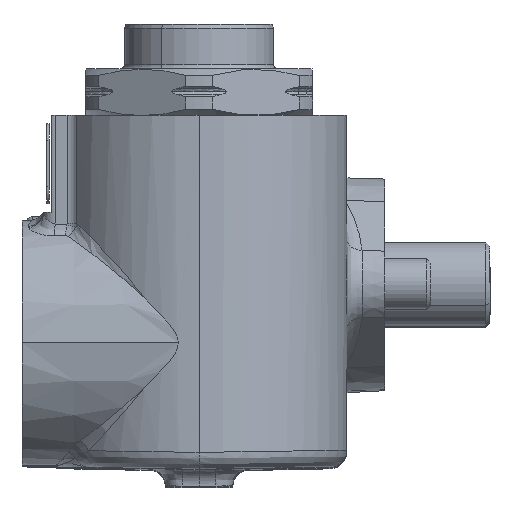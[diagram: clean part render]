
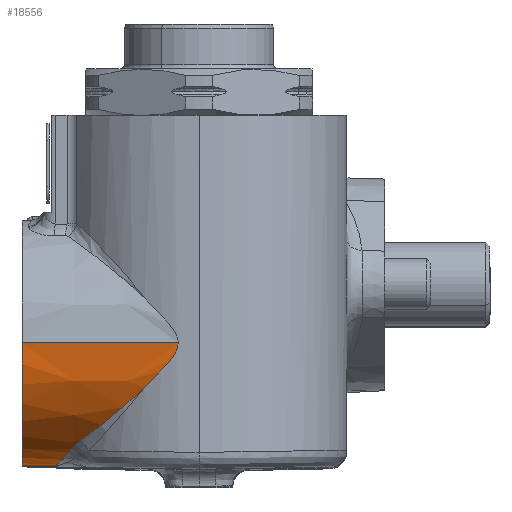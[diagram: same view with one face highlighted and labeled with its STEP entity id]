
A CAD part, top view. The second image highlights one B-rep face of the part: STEP entity #18556.
In plain terms, the highlighted conical face has half-angle 1 degrees and reference radius 14.5 mm.
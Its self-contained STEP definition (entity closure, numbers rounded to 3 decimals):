
#69 = VERTEX_POINT ( 'NONE', #23592 ) ;
#492 = CARTESIAN_POINT ( 'NONE',  ( 3.519, -7., 71.323 ) ) ;
#775 = CARTESIAN_POINT ( 'NONE',  ( 3.519, -7.29, 71.323 ) ) ;
#1036 = VECTOR ( 'NONE', #26942, 1000. ) ;
#1192 = CARTESIAN_POINT ( 'NONE',  ( -10.678, -21.297, 59.395 ) ) ;
#1485 = CARTESIAN_POINT ( 'NONE',  ( -11.01, -21.534, 57.672 ) ) ;
#1607 = DIRECTION ( 'NONE',  ( 1., 0., 0. ) ) ;
#1829 = AXIS2_PLACEMENT_3D ( 'NONE', #22110, #1607, #17307 ) ;
#1833 = CARTESIAN_POINT ( 'NONE',  ( -15., -7., 71. ) ) ;
#1981 = ORIENTED_EDGE ( 'NONE', *, *, #4391, .F. ) ;
#2154 = CARTESIAN_POINT ( 'NONE',  ( -9.704, -20.245, 62.651 ) ) ;
#2332 = VERTEX_POINT ( 'NONE', #22100 ) ;
#2387 = CARTESIAN_POINT ( 'NONE',  ( -4.98, -16.236, 67.923 ) ) ;
#2685 = CARTESIAN_POINT ( 'NONE',  ( -3.048, -14.656, 69.076 ) ) ;
#2795 = CIRCLE ( 'NONE', #1829, 14.5 ) ;
#2856 = CARTESIAN_POINT ( 'NONE',  ( 0.313, -11.549, 70.555 ) ) ;
#2882 = ORIENTED_EDGE ( 'NONE', *, *, #26855, .T. ) ;
#3002 = VERTEX_POINT ( 'NONE', #15024 ) ;
#3116 = VERTEX_POINT ( 'NONE', #17576 ) ;
#3421 = CARTESIAN_POINT ( 'NONE',  ( -11.103, -21.568, 57.088 ) ) ;
#3586 = ORIENTED_EDGE ( 'NONE', *, *, #8427, .T. ) ;
#3914 = B_SPLINE_CURVE_WITH_KNOTS ( 'NONE', 3,
 ( #492, #775, #25890, #7342, #14541, #14249, #23644, #10048, #14094, #19175, #23358, #2856, #23797, #12450 ),
 .UNSPECIFIED., .F., .F.,
 ( 4, 2, 2, 2, 2, 2, 4 ),
 ( 0.023, 0.024, 0.025, 0.026, 0.026, 0.028, 0.03 ),
 .UNSPECIFIED. ) ;
#4106 = FACE_OUTER_BOUND ( 'NONE', #23188, .T. ) ;
#4249 = DIRECTION ( 'NONE',  ( 1., 0., 0. ) ) ;
#4391 = EDGE_CURVE ( 'NONE', #3116, #26390, #3914, .T. ) ;
#6725 = VECTOR ( 'NONE', #7385, 1000. ) ;
#6875 = CARTESIAN_POINT ( 'NONE',  ( -7.469, -18.149, 66.002 ) ) ;
#7031 = CARTESIAN_POINT ( 'NONE',  ( -0.474, -12.326, 70.259 ) ) ;
#7342 = CARTESIAN_POINT ( 'NONE',  ( 3.225, -8.108, 71.279 ) ) ;
#7385 = DIRECTION ( 'NONE',  ( -1., 0.017, 0. ) ) ;
#8064 = CARTESIAN_POINT ( 'NONE',  ( -10.396, -21.028, 60.517 ) ) ;
#8427 = EDGE_CURVE ( 'NONE', #2332, #9780, #25546, .T. ) ;
#9609 = CONICAL_SURFACE ( 'NONE', #17239, 14.5, 0.017 ) ;
#9780 = VERTEX_POINT ( 'NONE', #23180 ) ;
#9941 = EDGE_CURVE ( 'NONE', #19570, #2332, #26952, .T. ) ;
#10048 = CARTESIAN_POINT ( 'NONE',  ( 2.228, -9.501, 71.09 ) ) ;
#10271 = CARTESIAN_POINT ( 'NONE',  ( -15., -7., 56.5 ) ) ;
#11114 = LINE ( 'NONE', #1833, #1036 ) ;
#11526 = EDGE_CURVE ( 'NONE', #19570, #3002, #18780, .T. ) ;
#12450 = CARTESIAN_POINT ( 'NONE',  ( -0.474, -12.326, 70.259 ) ) ;
#12452 = CARTESIAN_POINT ( 'NONE',  ( -8.055, -18.576, 65.432 ) ) ;
#12950 = B_SPLINE_CURVE_WITH_KNOTS ( 'NONE', 3,
 ( #14072, #6875, #20363, #16008, #2387, #18410, #2685, #27507, #25289, #7031 ),
 .UNSPECIFIED., .F., .F.,
 ( 4, 2, 2, 2, 4 ),
 ( 0., 0.003, 0.006, 0.008, 0.011 ),
 .UNSPECIFIED. ) ;
#13683 = CARTESIAN_POINT ( 'NONE',  ( -11.198, -21.566, 56.5 ) ) ;
#14072 = CARTESIAN_POINT ( 'NONE',  ( -8.055, -18.576, 65.432 ) ) ;
#14094 = CARTESIAN_POINT ( 'NONE',  ( 2.043, -9.715, 71.048 ) ) ;
#14249 = CARTESIAN_POINT ( 'NONE',  ( 2.76, -8.831, 71.198 ) ) ;
#14541 = CARTESIAN_POINT ( 'NONE',  ( 3.08, -8.355, 71.255 ) ) ;
#14683 = CARTESIAN_POINT ( 'NONE',  ( -8.672, -19.06, 64.76 ) ) ;
#15024 = CARTESIAN_POINT ( 'NONE',  ( -15., -21.5, 56.5 ) ) ;
#16008 = CARTESIAN_POINT ( 'NONE',  ( -5.619, -16.739, 67.483 ) ) ;
#16155 = ORIENTED_EDGE ( 'NONE', *, *, #17992, .F. ) ;
#16901 = CARTESIAN_POINT ( 'NONE',  ( -9.36, -19.768, 63.595 ) ) ;
#17239 = AXIS2_PLACEMENT_3D ( 'NONE', #10271, #4249, #27568 ) ;
#17307 = DIRECTION ( 'NONE',  ( 0., 0., -1. ) ) ;
#17576 = CARTESIAN_POINT ( 'NONE',  ( 3.519, -7., 71.323 ) ) ;
#17992 = EDGE_CURVE ( 'NONE', #69, #3116, #11114, .T. ) ;
#18404 = ORIENTED_EDGE ( 'NONE', *, *, #11526, .F. ) ;
#18410 = CARTESIAN_POINT ( 'NONE',  ( -3.695, -15.195, 68.718 ) ) ;
#18556 = ADVANCED_FACE ( 'NONE', ( #4106 ), #9609, .T. ) ;
#18780 = LINE ( 'NONE', #27857, #6725 ) ;
#19175 = CARTESIAN_POINT ( 'NONE',  ( 1.48, -10.346, 70.91 ) ) ;
#19451 = CARTESIAN_POINT ( 'NONE',  ( -9.52, -19.989, 63.157 ) ) ;
#19570 = VERTEX_POINT ( 'NONE', #13683 ) ;
#20363 = CARTESIAN_POINT ( 'NONE',  ( -6.863, -17.695, 66.523 ) ) ;
#21564 = CARTESIAN_POINT ( 'NONE',  ( -9.52, -19.989, 63.157 ) ) ;
#21613 = CARTESIAN_POINT ( 'NONE',  ( -0.474, -12.326, 70.259 ) ) ;
#21685 = CARTESIAN_POINT ( 'NONE',  ( -10.798, -21.398, 58.826 ) ) ;
#22100 = CARTESIAN_POINT ( 'NONE',  ( -9.52, -19.989, 63.157 ) ) ;
#22110 = CARTESIAN_POINT ( 'NONE',  ( -15., -7., 56.5 ) ) ;
#23180 = CARTESIAN_POINT ( 'NONE',  ( -8.055, -18.576, 65.432 ) ) ;
#23188 = EDGE_LOOP ( 'NONE', ( #16155, #27596, #18404, #24788, #3586, #2882, #1981 ) ) ;
#23358 = CARTESIAN_POINT ( 'NONE',  ( 1.093, -10.752, 70.803 ) ) ;
#23592 = CARTESIAN_POINT ( 'NONE',  ( -15., -7., 71. ) ) ;
#23644 = CARTESIAN_POINT ( 'NONE',  ( 2.586, -9.06, 71.165 ) ) ;
#23797 = CARTESIAN_POINT ( 'NONE',  ( -0.08, -11.94, 70.415 ) ) ;
#23798 = CARTESIAN_POINT ( 'NONE',  ( -8.383, -18.815, 65.113 ) ) ;
#23925 = CARTESIAN_POINT ( 'NONE',  ( -11.198, -21.566, 56.5 ) ) ;
#24788 = ORIENTED_EDGE ( 'NONE', *, *, #9941, .T. ) ;
#24914 = CARTESIAN_POINT ( 'NONE',  ( -9.89, -20.47, 62.134 ) ) ;
#25289 = CARTESIAN_POINT ( 'NONE',  ( -1.107, -12.947, 70.006 ) ) ;
#25546 = B_SPLINE_CURVE_WITH_KNOTS ( 'NONE', 3,
 ( #21564, #16901, #26034, #14683, #23798, #12452 ),
 .UNSPECIFIED., .F., .F.,
 ( 4, 2, 4 ),
 ( 0., 0.002, 0.003 ),
 .UNSPECIFIED. ) ;
#25890 = CARTESIAN_POINT ( 'NONE',  ( 3.448, -7.576, 71.313 ) ) ;
#26034 = CARTESIAN_POINT ( 'NONE',  ( -9.159, -19.535, 64.002 ) ) ;
#26390 = VERTEX_POINT ( 'NONE', #21613 ) ;
#26416 = CARTESIAN_POINT ( 'NONE',  ( -10.236, -20.861, 61.068 ) ) ;
#26855 = EDGE_CURVE ( 'NONE', #9780, #26390, #12950, .T. ) ;
#26942 = DIRECTION ( 'NONE',  ( 1., 0., 0.017 ) ) ;
#26952 = B_SPLINE_CURVE_WITH_KNOTS ( 'NONE', 3,
 ( #23925, #3421, #1485, #21685, #1192, #8064, #26416, #24914, #2154, #19451 ),
 .UNSPECIFIED., .F., .F.,
 ( 4, 2, 2, 2, 4 ),
 ( 0., 0.002, 0.004, 0.005, 0.007 ),
 .UNSPECIFIED. ) ;
#27507 = CARTESIAN_POINT ( 'NONE',  ( -1.754, -13.532, 69.72 ) ) ;
#27568 = DIRECTION ( 'NONE',  ( 0., 0., 1. ) ) ;
#27596 = ORIENTED_EDGE ( 'NONE', *, *, #28032, .T. ) ;
#27857 = CARTESIAN_POINT ( 'NONE',  ( -17., -21.465, 56.5 ) ) ;
#28032 = EDGE_CURVE ( 'NONE', #69, #3002, #2795, .T. ) ;
